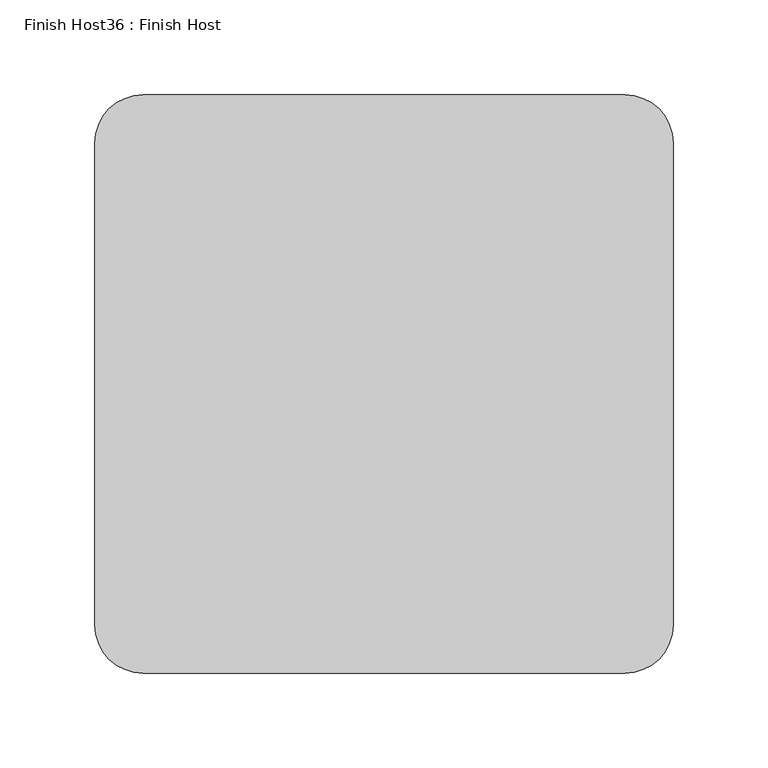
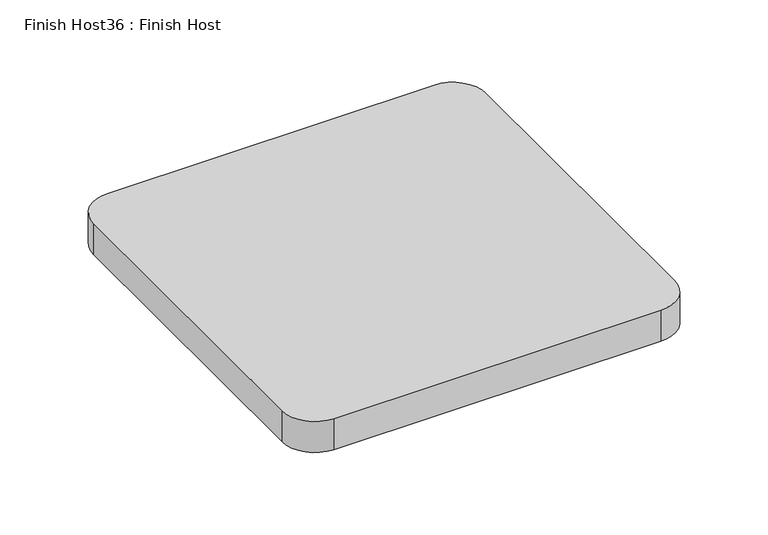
"""IFC4 building model written with IfcOpenShell, lengths in millimetres: proxy geometry, Finish Host36 : Finish Host."""

from ifc_helpers import new_model, si_unit, point, frame_2d, origin, origin_with_axes, place, context, project, spatial, polyline, circle_curve, trimmed, segment, composite_curve, outline, extrude, source, transform, mapped, element, save


def finish_host36_finish_host_0f730452(model_context):
    return source(origin(), model_context, "Body", "SweptSolid", [
        extrude(outline(composite_curve([segment(polyline([(5787.5649374, 1108.9667263), (5787.5649374, 1362.9667263)]), True, "CONTINUOUS"), segment(trimmed(circle_curve(frame_2d((5812.9649374, 1362.9667263)), 25.4), [point((5787.5649374, 1362.9667263))], [point((5812.9649374, 1388.3667263))], False, "CARTESIAN"), True, "CONTINUOUS"), segment(polyline([(5812.9649374, 1388.3667263), (6066.9649374, 1388.3667263)]), True, "CONTINUOUS"), segment(trimmed(circle_curve(frame_2d((6066.9649374, 1362.9667263)), 25.4), [point((6066.9649374, 1388.3667263))], [point((6092.3649374, 1362.9667263))], False, "CARTESIAN"), True, "CONTINUOUS"), segment(polyline([(6092.3649374, 1362.9667263), (6092.3649374, 1108.9667263)]), True, "CONTINUOUS"), segment(trimmed(circle_curve(frame_2d((6066.9649374, 1108.9667263)), 25.4), [point((6092.3649374, 1108.9667263))], [point((6066.9649374, 1083.5667263))], False, "CARTESIAN"), True, "CONTINUOUS"), segment(polyline([(6066.9649374, 1083.5667263), (5812.9649374, 1083.5667263)]), True, "CONTINUOUS"), segment(trimmed(circle_curve(frame_2d((5812.9649374, 1108.9667263)), 25.4), [point((5812.9649374, 1083.5667263))], [point((5787.5649374, 1108.9667263))], False, "CARTESIAN"), True, "CONTINUOUS")], self_intersect=False)), origin_with_axes(), (0.0, 0.0, 1.0), 25.4),
    ])


if __name__ == "__main__":
    model = new_model("IFC4")
    model_context = context("Model", 3, world=origin())
    ifc_project = project(units=[si_unit("LENGTHUNIT", "METRE", prefix="MILLI")], contexts=[model_context])
    site = spatial("IfcSite", under=ifc_project)
    building = spatial("IfcBuilding", under=site)
    placement = place(None, origin())
    finish_host36_finish_host_shape = finish_host36_finish_host_0f730452(model_context)
    element("IfcBuildingElementProxy", 1, Name="Finish Host36 : Finish Host", ObjectType="Finish Host36 : Finish Host", at=placement, inside=building, context=model_context, shape_type="MappedRepresentation", body=[
        mapped(finish_host36_finish_host_shape, transform((0.0, 0.0, 0.0), x_axis=(1.0, 0.0, 0.0), y_axis=(0.0, 1.0, 0.0), z_axis=(0.0, 0.0, 1.0))),
    ])
    save(model, "model.ifc")
